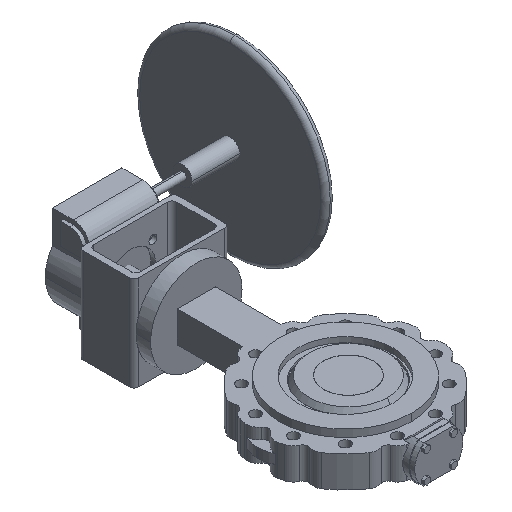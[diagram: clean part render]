
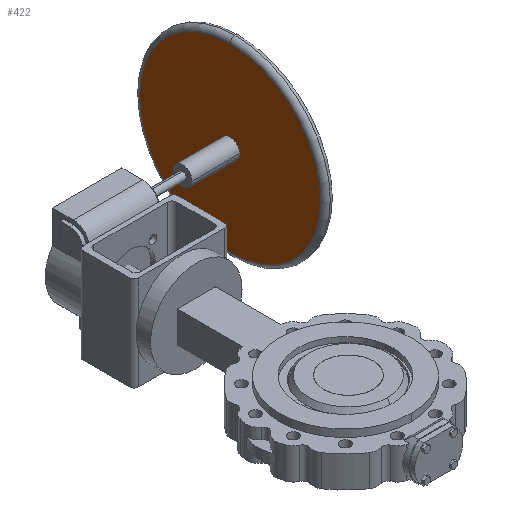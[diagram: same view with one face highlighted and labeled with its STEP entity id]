
A CAD part, isometric view. The second image highlights one B-rep face of the part: STEP entity #422.
In plain terms, the highlighted planar face has unit normal (-1, 0, 0).
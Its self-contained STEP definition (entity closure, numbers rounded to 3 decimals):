
#422 = ADVANCED_FACE( '', ( #1101, #1102 ), #1103, .T. );
#1101 = FACE_OUTER_BOUND( '', #1794, .T. );
#1102 = FACE_BOUND( '', #1795, .T. );
#1103 = PLANE( '', #1796 );
#1794 = EDGE_LOOP( '', ( #4321, #4322, #4323 ) );
#1795 = EDGE_LOOP( '', ( #4324, #4325 ) );
#1796 = AXIS2_PLACEMENT_3D( '', #4326, #4327, #4328 );
#4321 = ORIENTED_EDGE( '', *, *, #5129, .F. );
#4322 = ORIENTED_EDGE( '', *, *, #5128, .F. );
#4323 = ORIENTED_EDGE( '', *, *, #5125, .F. );
#4324 = ORIENTED_EDGE( '', *, *, #5151, .T. );
#4325 = ORIENTED_EDGE( '', *, *, #5243, .T. );
#4326 = CARTESIAN_POINT( '', ( 321., 754.25, 104.5 ) );
#4327 = DIRECTION( '', ( -1., 0., 0. ) );
#4328 = DIRECTION( '', ( 0., -1., 0. ) );
#5125 = EDGE_CURVE( '', #6427, #6429, #6430, .T. );
#5128 = EDGE_CURVE( '', #6429, #6433, #6434, .T. );
#5129 = EDGE_CURVE( '', #6433, #6427, #6435, .T. );
#5151 = EDGE_CURVE( '', #6472, #6476, #6478, .T. );
#5243 = EDGE_CURVE( '', #6476, #6472, #6630, .T. );
#6427 = VERTEX_POINT( '', #8952 );
#6429 = VERTEX_POINT( '', #8954 );
#6430 = CIRCLE( '', #8955, 237.5 );
#6433 = VERTEX_POINT( '', #8958 );
#6434 = CIRCLE( '', #8959, 237.5 );
#6435 = CIRCLE( '', #8960, 237.5 );
#6472 = VERTEX_POINT( '', #9028 );
#6476 = VERTEX_POINT( '', #9033 );
#6478 = CIRCLE( '', #9036, 25. );
#6630 = CIRCLE( '', #9261, 25. );
#8952 = CARTESIAN_POINT( '', ( 321., 623., 342. ) );
#8954 = CARTESIAN_POINT( '', ( 321., 623., -133. ) );
#8955 = AXIS2_PLACEMENT_3D( '', #10609, #10610, #10611 );
#8958 = CARTESIAN_POINT( '', ( 321., 860.5, 104.5 ) );
#8959 = AXIS2_PLACEMENT_3D( '', #10618, #10619, #10620 );
#8960 = AXIS2_PLACEMENT_3D( '', #10621, #10622, #10623 );
#9028 = CARTESIAN_POINT( '', ( 321., 648., 104.5 ) );
#9033 = CARTESIAN_POINT( '', ( 321., 598., 104.5 ) );
#9036 = AXIS2_PLACEMENT_3D( '', #10668, #10669, #10670 );
#9261 = AXIS2_PLACEMENT_3D( '', #10798, #10799, #10800 );
#10609 = CARTESIAN_POINT( '', ( 321., 623., 104.5 ) );
#10610 = DIRECTION( '', ( 1., 0., 0. ) );
#10611 = DIRECTION( '', ( 0., 1., 0. ) );
#10618 = CARTESIAN_POINT( '', ( 321., 623., 104.5 ) );
#10619 = DIRECTION( '', ( 1., 0., 0. ) );
#10620 = DIRECTION( '', ( 0., 1., 0. ) );
#10621 = CARTESIAN_POINT( '', ( 321., 623., 104.5 ) );
#10622 = DIRECTION( '', ( 1., 0., 0. ) );
#10623 = DIRECTION( '', ( 0., 1., 0. ) );
#10668 = CARTESIAN_POINT( '', ( 321., 623., 104.5 ) );
#10669 = DIRECTION( '', ( 1., 0., 0. ) );
#10670 = DIRECTION( '', ( 0., 1., 0. ) );
#10798 = CARTESIAN_POINT( '', ( 321., 623., 104.5 ) );
#10799 = DIRECTION( '', ( 1., 0., 0. ) );
#10800 = DIRECTION( '', ( 0., 1., 0. ) );
